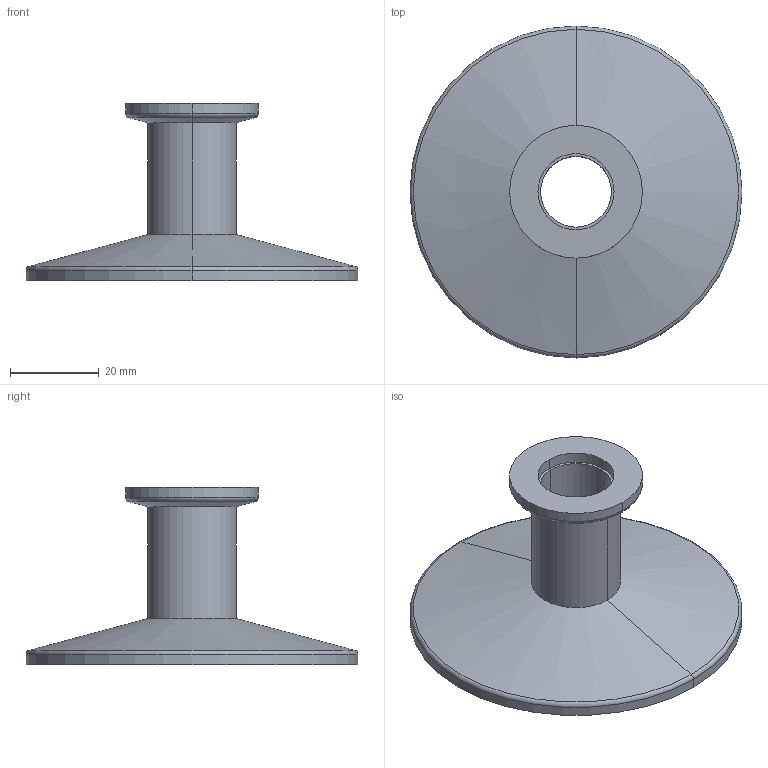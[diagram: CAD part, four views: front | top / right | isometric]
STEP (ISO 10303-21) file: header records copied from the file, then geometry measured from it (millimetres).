
FILE_DESCRIPTION (( 'STEP AP214' ), '1' );
FILE_NAME ('W3RS50-16.STEP', '2019-12-04T08:19:52', ( '' ), ( '' ), 'SwSTEP 2.0', 'SolidWorks 2018', '' );
FILE_SCHEMA (( 'AUTOMOTIVE_DESIGN' ));
Length unit declared in the file: millimetre
Products named in the file (1): W3RS50-16
Bounding box: 75 x 75 x 40 mm (x, y, z)
Volume: 25497.4 mm3; surface area: 14185.5 mm2
Topology: 1 solids, 1 shells, 24 faces, 48 edges, 28 vertices
Faces by surface type: cylinder 12, torus 4, cone 4, plane 4
Entity records: 666 total; most frequent: DIRECTION 130, CARTESIAN_POINT 101, ORIENTED_EDGE 96, AXIS2_PLACEMENT_3D 57, EDGE_CURVE 48, CIRCLE 32, EDGE_LOOP 28, VERTEX_POINT 28
